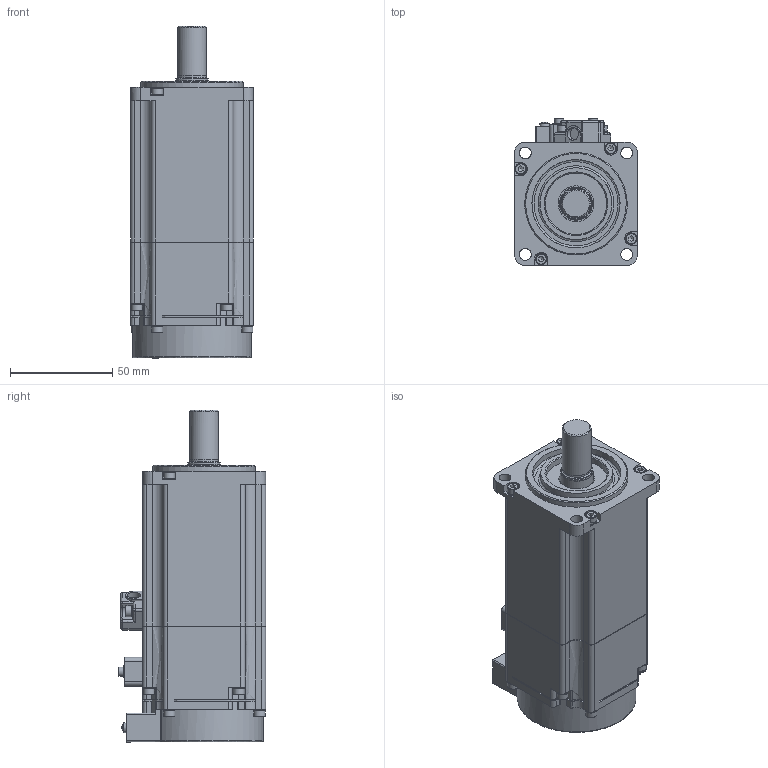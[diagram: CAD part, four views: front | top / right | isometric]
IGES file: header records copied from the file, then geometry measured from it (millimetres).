
Global section: file name: L040B; native system: Autodesk Inventor 2014; preprocessor: unknown; author: Mejust; date: 20160718.112356; units: millimetre
Bounding box: 60 x 71.8 x 162 mm (x, y, z)
Volume: 120989.2 mm3; surface area: 80711.5 mm2
Topology: 19 solids, 45 shells, 900 faces, 2328 edges, 1560 vertices
Faces by surface type: bspline 900
